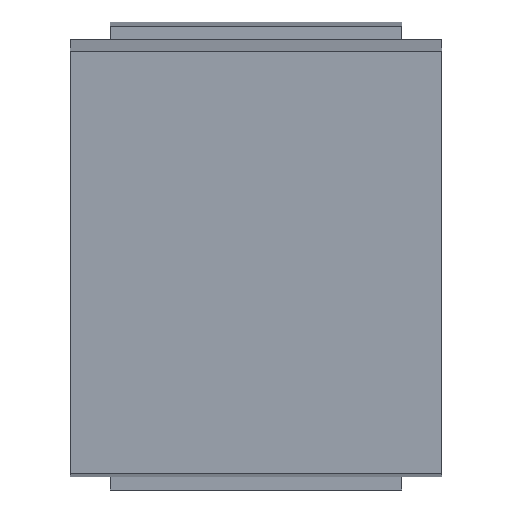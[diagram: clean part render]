
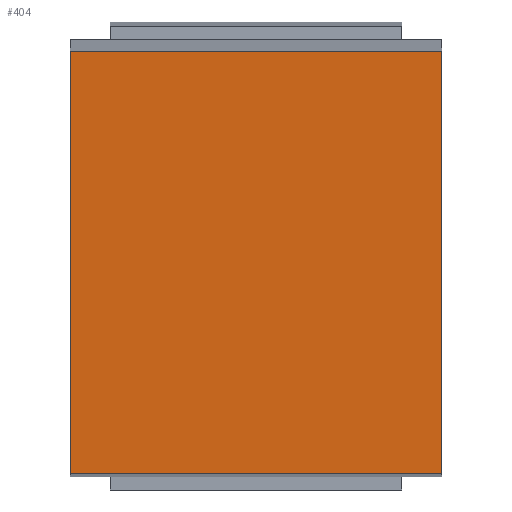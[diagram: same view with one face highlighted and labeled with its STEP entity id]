
A CAD part, top view. The second image highlights one B-rep face of the part: STEP entity #404.
In plain terms, the highlighted planar face has unit normal (0, -0.05, 0.999) as drawn and (0, 1, 0) by its records, which use the part's own axes.
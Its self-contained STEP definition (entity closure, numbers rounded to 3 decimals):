
#43=FACE_OUTER_BOUND('',#64,.T.);
#64=EDGE_LOOP('',(#313,#314,#315,#316));
#89=LINE('',#586,#138);
#100=LINE('',#608,#149);
#102=LINE('',#611,#151);
#103=LINE('',#613,#152);
#138=VECTOR('',#470,3.186);
#149=VECTOR('',#491,3.186);
#151=VECTOR('',#495,2.8);
#152=VECTOR('',#498,2.8);
#184=VERTEX_POINT('',#583);
#185=VERTEX_POINT('',#585);
#190=VERTEX_POINT('',#605);
#191=VERTEX_POINT('',#607);
#221=EDGE_CURVE('',#185,#184,#89,.T.);
#232=EDGE_CURVE('',#191,#190,#100,.T.);
#234=EDGE_CURVE('',#184,#191,#102,.F.);
#235=EDGE_CURVE('',#190,#185,#103,.F.);
#313=ORIENTED_EDGE('',*,*,#235,.T.);
#314=ORIENTED_EDGE('',*,*,#221,.T.);
#315=ORIENTED_EDGE('',*,*,#234,.T.);
#316=ORIENTED_EDGE('',*,*,#232,.T.);
#370=PLANE('',#428);
#404=ADVANCED_FACE('',(#43),#370,.T.);
#428=AXIS2_PLACEMENT_3D('',#614,#499,#500);
#470=DIRECTION('',(0.,0.,-1.));
#491=DIRECTION('',(0.,0.,1.));
#495=DIRECTION('',(1.,0.,0.));
#498=DIRECTION('',(-1.,0.,0.));
#499=DIRECTION('center_axis',(0.,1.,0.));
#500=DIRECTION('ref_axis',(0.,0.,1.));
#583=CARTESIAN_POINT('',(1.4,0.65,-1.593));
#585=CARTESIAN_POINT('',(1.4,0.65,1.593));
#586=CARTESIAN_POINT('',(1.4,0.65,1.65));
#605=CARTESIAN_POINT('',(-1.4,0.65,1.593));
#607=CARTESIAN_POINT('',(-1.4,0.65,-1.593));
#608=CARTESIAN_POINT('',(-1.4,0.65,-1.65));
#611=CARTESIAN_POINT('',(0.7,0.65,-1.593));
#613=CARTESIAN_POINT('',(-0.7,0.65,1.593));
#614=CARTESIAN_POINT('Origin',(0.,0.65,0.));
